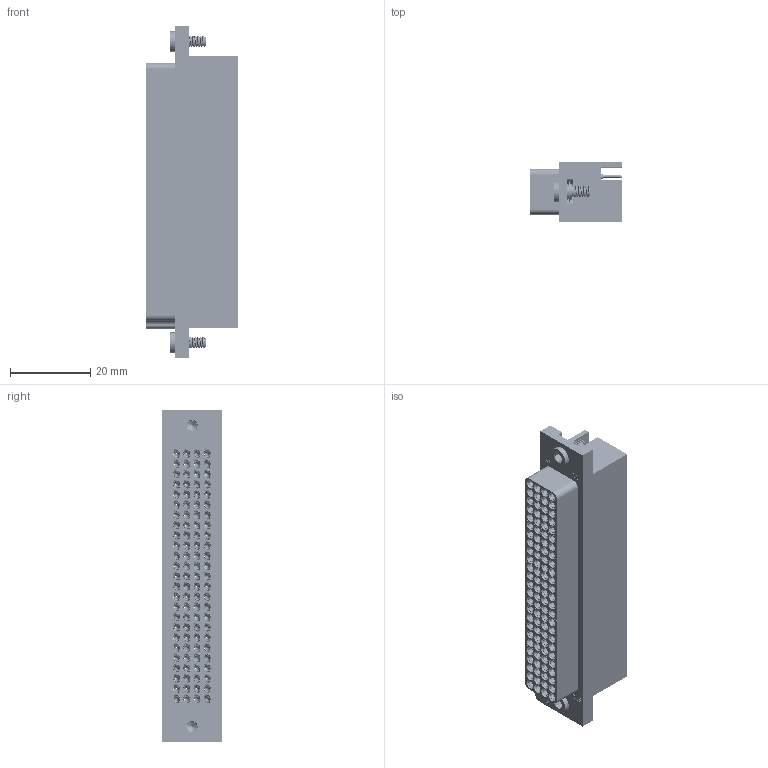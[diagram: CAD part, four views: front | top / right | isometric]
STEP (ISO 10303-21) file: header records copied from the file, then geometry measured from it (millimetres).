
FILE_DESCRIPTION(/* description */ (''),/* implementation_level */ '2;1');
FILE_NAME(/* name */ 'F:\CAD\CAD COMPLETE\web site project\Receiver Modules\562184-RevA-STP\562184-CU.stp',/* time_stamp */ '2015-05-15T09:06:22+01:00',/* author */ ('davecooper'),/* organization */ (''),/* preprocessor_version */ 'ST-DEVELOPER v15.2',/* originating_system */ 'Autodesk Inventor 2014',/* authorisation */ '');
FILE_SCHEMA (('AUTOMOTIVE_DESIGN { 1 0 10303 214 3 1 1 }'));
Products named in the file (1): 562184-CU
Bounding box: 22.94 x 14.83 x 82.55 mm (x, y, z)
Surface area: 36920.3 mm2 (no closed solid volume)
Topology: 0 solids, 105 shells, 8394 faces, 24042 edges, 15829 vertices
Faces by surface type: plane 2844, cylinder 2758, bspline 1484, torus 700, cone 608
Full cylindrical faces by diameter (mm): 1.778 x100, 2.261 x200, 2.381 x2, 2.845 x12, 3.429 x2, 3.962 x4, 4.064 x2, 5.08 x2
Entity records: 368350 total; most frequent: CARTESIAN_POINT 160540, ORIENTED_EDGE 47330, DIRECTION 32667, EDGE_CURVE 23665, VERTEX_POINT 15786, AXIS2_PLACEMENT_3D 11901, EDGE_LOOP 9875, LINE 8865
